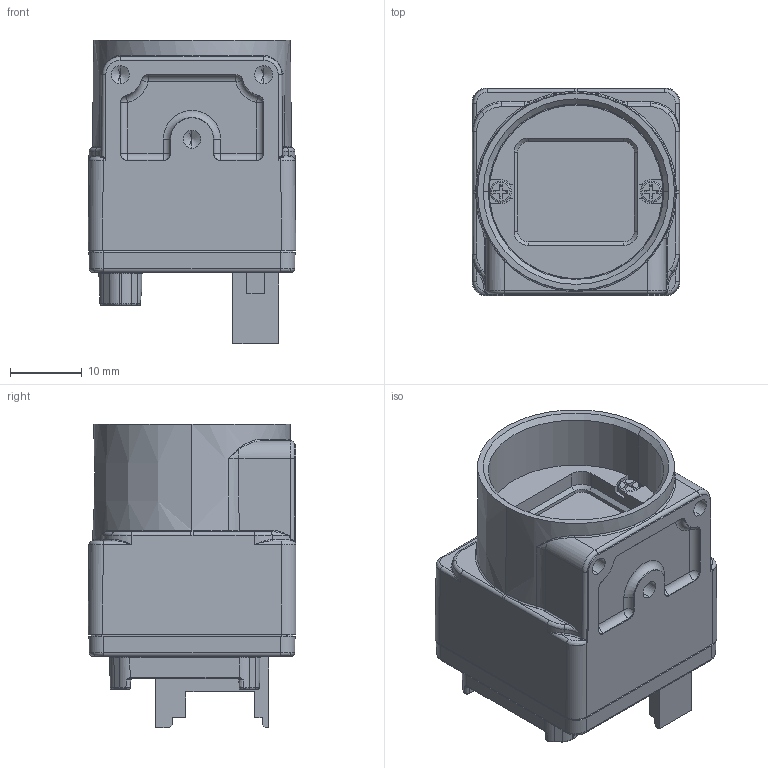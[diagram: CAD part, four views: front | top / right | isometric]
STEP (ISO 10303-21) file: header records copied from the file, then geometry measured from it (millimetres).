
FILE_DESCRIPTION (( 'STEP AP214' ), '1' );
FILE_NAME ('BU20M_3Dƒ‚ƒfƒ‹.STEP', '2022-09-28T02:47:03', ( '' ), ( '' ), 'SwSTEP 2.0', 'SolidWorks 2020', '' );
FILE_SCHEMA (( 'AUTOMOTIVE_DESIGN' ));
Length unit declared in the file: millimetre
Products named in the file (1): BU20M_3Dモデル
Bounding box: 29 x 29 x 42.35 mm (x, y, z)
Volume: 19521.1 mm3; surface area: 8996.4 mm2
Topology: 3 solids, 11 shells, 1886 faces, 5074 edges, 3246 vertices
Faces by surface type: plane 1203, cylinder 424, bspline 172, cone 41, torus 38, sphere 8
Entity records: 78941 total; most frequent: CARTESIAN_POINT 18064, ORIENTED_EDGE 10084, DIRECTION 7885, EDGE_CURVE 5042, VECTOR 3425, LINE 3425, VERTEX_POINT 3246, AXIS2_PLACEMENT_3D 2230
